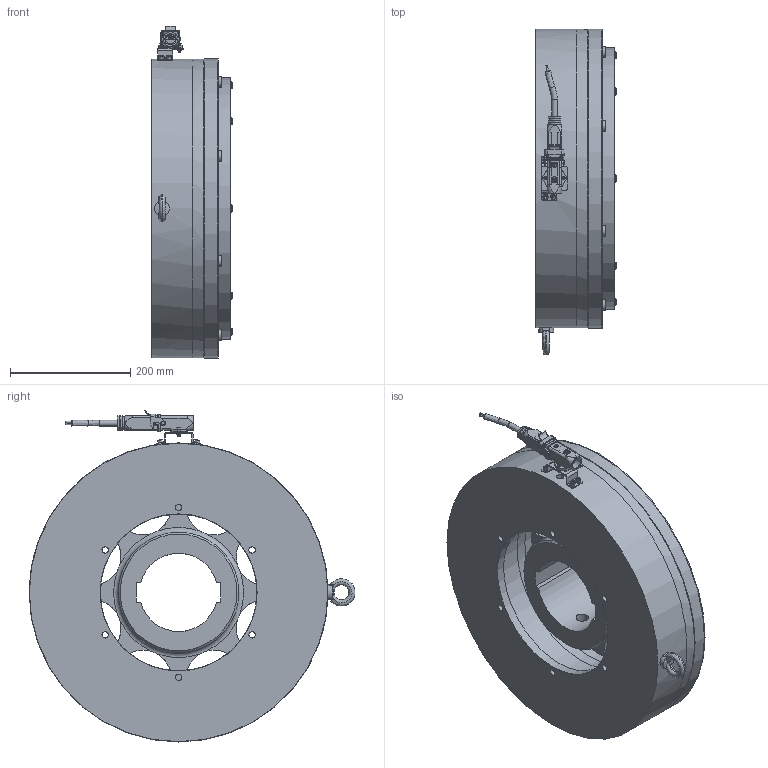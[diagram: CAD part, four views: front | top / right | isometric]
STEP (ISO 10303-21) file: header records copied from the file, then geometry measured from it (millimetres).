
FILE_DESCRIPTION(/* description */ (''),/* implementation_level */ '2;1');
FILE_NAME(/* name */ 'X:\INVENTOR\DISEGNI\08_Freni_Friz_Elettmag_Monodisco\08_28 EMFL_DF\EMFL_DF STEP\08_28_500_13 EMFL500_DF-C-MI_S@STEP.stp',/* time_stamp */ '2018-04-23T09:40:53+02:00',/* author */ ('stefano'),/* organization */ (''),/* preprocessor_version */ 'ST-DEVELOPER v17',/* originating_system */ 'Autodesk Inventor 2018',/* authorisation */ '');
FILE_SCHEMA (('AUTOMOTIVE_DESIGN { 1 0 10303 214 3 1 1 }'));
Products named in the file (1): 08_28_500_13 EMFL500_DF-C-MI - Spina_Substitute_1
Bounding box: 133.5 x 541.5 x 551.6 mm (x, y, z)
Volume: 15963159 mm3; surface area: 1362818.1 mm2
Topology: 3 solids, 3 shells, 1602 faces, 4521 edges, 3004 vertices
Faces by surface type: plane 964, cylinder 500, cone 86, bspline 25, torus 24, sphere 3
Full cylindrical faces by diameter (mm): 0.753 x1, 0.986 x1, 1.05 x1, 2.5 x2, 3 x3, 3.2 x1, 3.25 x2, 3.59 x1, 4 x3, 4.675 x2, 4.8 x2, 5 x20, 5.5 x2, 6 x2, 6.2 x1, 7 x1, 8.2 x2, 8.5 x4, 9.5 x2, 10.5 x6, 12 x9, 13.5 x2, 16 x2, 18 x25, 18.6 x1, 20 x16, 20.6 x1, 20.752 x2, 95 x8, 200 x1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
Entity records: 55893 total; most frequent: CARTESIAN_POINT 11388, DIRECTION 9088, ORIENTED_EDGE 9012, EDGE_CURVE 4506, AXIS2_PLACEMENT_3D 3251, VERTEX_POINT 3004, LINE 2586, VECTOR 2586
